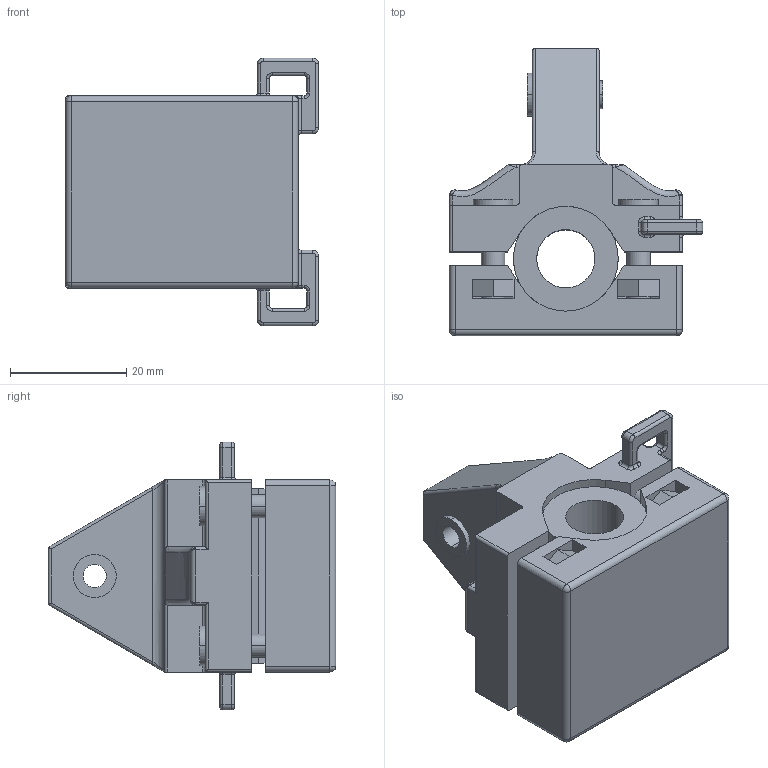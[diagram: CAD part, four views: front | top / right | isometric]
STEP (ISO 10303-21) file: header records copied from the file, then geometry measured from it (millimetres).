
FILE_DESCRIPTION (( 'STEP AP203' ), '1' );
FILE_NAME ('Assemblage_liaison_pivot_sur_douille.STEP', '2020-03-27T10:56:36', ( '' ), ( '' ), 'SwSTEP 2.0', 'SolidWorks 2020', '' );
FILE_SCHEMA (( 'CONFIG_CONTROL_DESIGN' ));
Length unit declared in the file: millimetre
Products named in the file (7): Assemblage_liaison_pivot_sur_douille; insert; vis; douille_top; douille_back; douille; ecrou
Assembly tree (12 placements, depth 2):
  Assemblage_liaison_pivot_sur_douille
    douille_back
    douille
    douille_top
    ecrou  x4
    vis  x4
    insert
Bounding box: 43.5 x 49.41 x 46 mm (x, y, z)
Volume: 34205.5 mm3; surface area: 17319.8 mm2
Topology: 12 solids, 12 shells, 400 faces, 952 edges, 580 vertices
Faces by surface type: cylinder 180, plane 140, torus 52, bspline 24, sphere 4
Entity records: 12139 total; most frequent: CARTESIAN_POINT 3052, DIRECTION 1806, ORIENTED_EDGE 1664, EDGE_CURVE 832, AXIS2_PLACEMENT_3D 702, VERTEX_POINT 508, VECTOR 402, LINE 402
